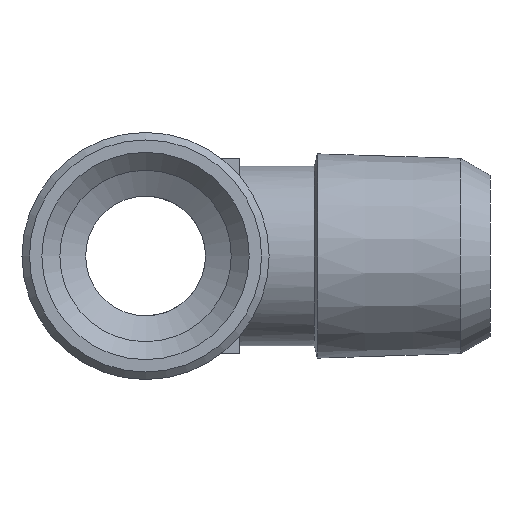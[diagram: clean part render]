
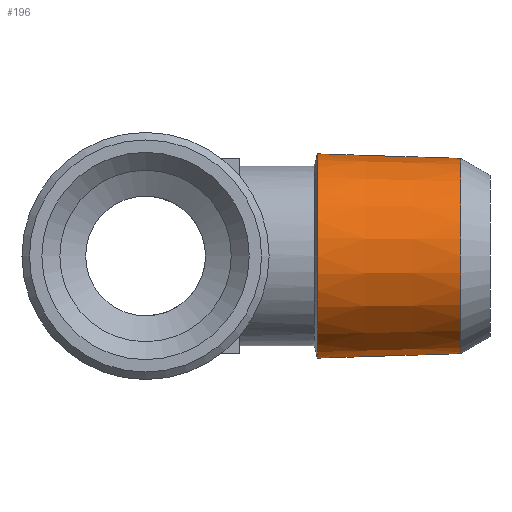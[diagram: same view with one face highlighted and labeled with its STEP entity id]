
A CAD part, left-side view. The second image highlights one B-rep face of the part: STEP entity #196.
In plain terms, the highlighted conical face has half-angle 1.79 degrees and reference radius 6.52 mm.
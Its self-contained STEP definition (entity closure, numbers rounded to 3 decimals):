
#23 = AXIS2_PLACEMENT_3D ( 'NONE', #762, #266, #773 ) ;
#54 = AXIS2_PLACEMENT_3D ( 'NONE', #275, #274, #273 ) ;
#58 = EDGE_CURVE ( 'NONE', #867, #867, #1131, .T. ) ;
#101 = AXIS2_PLACEMENT_3D ( 'NONE', #532, #533, #531 ) ;
#131 = EDGE_CURVE ( 'NONE', #853, #853, #1044, .T. ) ;
#196 = ADVANCED_FACE ( 'NONE', ( #956, #947 ), #943, .T. ) ;
#266 = DIRECTION ( 'NONE',  ( 0., -1., 0. ) ) ;
#273 = DIRECTION ( 'NONE',  ( 0., 0., 1. ) ) ;
#274 = DIRECTION ( 'NONE',  ( 0., -1., 0. ) ) ;
#275 = CARTESIAN_POINT ( 'NONE',  ( 0., 4.44, 0. ) ) ;
#531 = DIRECTION ( 'NONE',  ( 0., 0., 1. ) ) ;
#532 = CARTESIAN_POINT ( 'NONE',  ( 0., 4.44, 0. ) ) ;
#533 = DIRECTION ( 'NONE',  ( 0., 1., 0. ) ) ;
#695 = CARTESIAN_POINT ( 'NONE',  ( 0., 14.017, -6.819 ) ) ;
#699 = CARTESIAN_POINT ( 'NONE',  ( 0., 4.44, 6.52 ) ) ;
#762 = CARTESIAN_POINT ( 'NONE',  ( 0., 14.017, 0. ) ) ;
#773 = DIRECTION ( 'NONE',  ( 0., 0., -1. ) ) ;
#790 = EDGE_LOOP ( 'NONE', ( #1011 ) ) ;
#853 = VERTEX_POINT ( 'NONE', #695 ) ;
#867 = VERTEX_POINT ( 'NONE', #699 ) ;
#943 = CONICAL_SURFACE ( 'NONE', #101, 6.52, 0.031 ) ;
#947 = FACE_OUTER_BOUND ( 'NONE', #1084, .T. ) ;
#956 = FACE_BOUND ( 'NONE', #790, .T. ) ;
#1011 = ORIENTED_EDGE ( 'NONE', *, *, #58, .F. ) ;
#1044 = CIRCLE ( 'NONE', #23, 6.819 ) ;
#1084 = EDGE_LOOP ( 'NONE', ( #1122 ) ) ;
#1122 = ORIENTED_EDGE ( 'NONE', *, *, #131, .T. ) ;
#1131 = CIRCLE ( 'NONE', #54, 6.52 ) ;
